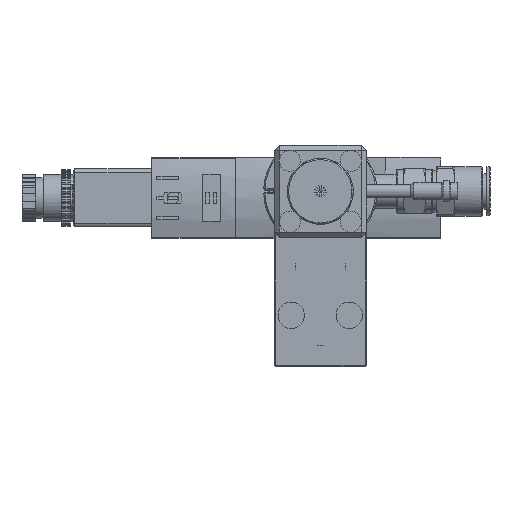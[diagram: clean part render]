
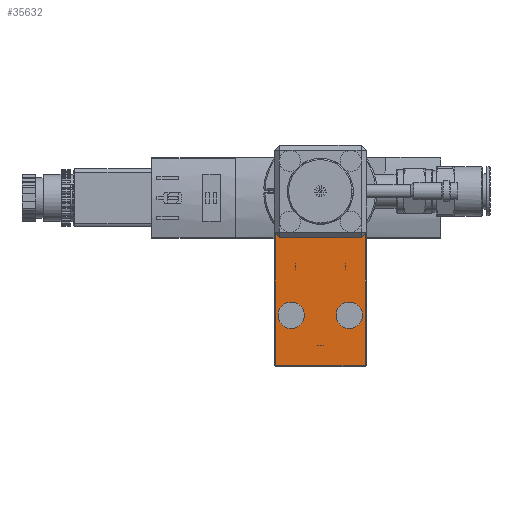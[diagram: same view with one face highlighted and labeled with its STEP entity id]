
A CAD part, front view. The second image highlights one B-rep face of the part: STEP entity #35632.
In plain terms, the highlighted planar face has unit normal (0, -1, 0).
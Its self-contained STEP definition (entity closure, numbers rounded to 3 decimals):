
#489 = CARTESIAN_POINT ( 'NONE',  ( 17., 20., -66. ) ) ;
#592 = LINE ( 'NONE', #4089, #22152 ) ;
#725 = VERTEX_POINT ( 'NONE', #26865 ) ;
#757 = CARTESIAN_POINT ( 'NONE',  ( -17., 20., -24.5 ) ) ;
#1334 = LINE ( 'NONE', #26139, #9729 ) ;
#1860 = CIRCLE ( 'NONE', #11705, 5. ) ;
#3823 = DIRECTION ( 'NONE',  ( 0., 1., 0. ) ) ;
#4089 = CARTESIAN_POINT ( 'NONE',  ( -15.5, 20., -17. ) ) ;
#4356 = LINE ( 'NONE', #16863, #37200 ) ;
#4552 = DIRECTION ( 'NONE',  ( -0.707, 0., -0.707 ) ) ;
#5322 = VERTEX_POINT ( 'NONE', #14360 ) ;
#6152 = CARTESIAN_POINT ( 'NONE',  ( 17., 20., -15.293 ) ) ;
#7515 = ORIENTED_EDGE ( 'NONE', *, *, #8102, .T. ) ;
#8102 = EDGE_CURVE ( 'NONE', #19558, #725, #16359, .T. ) ;
#9729 = VECTOR ( 'NONE', #22853, 1000. ) ;
#10432 = LINE ( 'NONE', #20031, #37012 ) ;
#10791 = DIRECTION ( 'NONE',  ( 0., 0., 1. ) ) ;
#11668 = EDGE_LOOP ( 'NONE', ( #14402 ) ) ;
#11705 = AXIS2_PLACEMENT_3D ( 'NONE', #19997, #29443, #16934 ) ;
#12196 = VERTEX_POINT ( 'NONE', #19119 ) ;
#13289 = DIRECTION ( 'NONE',  ( 0., 0., -1. ) ) ;
#13771 = EDGE_CURVE ( 'NONE', #15449, #12196, #592, .T. ) ;
#13899 = VECTOR ( 'NONE', #13289, 1000. ) ;
#14200 = DIRECTION ( 'NONE',  ( 0., 0., 1. ) ) ;
#14326 = VECTOR ( 'NONE', #4552, 1000. ) ;
#14360 = CARTESIAN_POINT ( 'NONE',  ( 11., 20., -52. ) ) ;
#14402 = ORIENTED_EDGE ( 'NONE', *, *, #27837, .F. ) ;
#15310 = EDGE_LOOP ( 'NONE', ( #38120 ) ) ;
#15449 = VERTEX_POINT ( 'NONE', #26768 ) ;
#16104 = AXIS2_PLACEMENT_3D ( 'NONE', #26336, #3823, #10791 ) ;
#16359 = LINE ( 'NONE', #757, #13899 ) ;
#16579 = EDGE_CURVE ( 'NONE', #725, #37054, #1334, .T. ) ;
#16599 = DIRECTION ( 'NONE',  ( 0., -1., 0. ) ) ;
#16631 = EDGE_CURVE ( 'NONE', #5322, #5322, #1860, .T. ) ;
#16863 = CARTESIAN_POINT ( 'NONE',  ( 17., 20., -24.5 ) ) ;
#16934 = DIRECTION ( 'NONE',  ( 0., 0., -1. ) ) ;
#17098 = AXIS2_PLACEMENT_3D ( 'NONE', #22291, #16599, #28487 ) ;
#17124 = FACE_BOUND ( 'NONE', #11668, .T. ) ;
#17258 = CARTESIAN_POINT ( 'NONE',  ( 16.146, 20., -16.146 ) ) ;
#19119 = CARTESIAN_POINT ( 'NONE',  ( -15.293, 20., -17. ) ) ;
#19558 = VERTEX_POINT ( 'NONE', #34876 ) ;
#19997 = CARTESIAN_POINT ( 'NONE',  ( 11., 20., -47. ) ) ;
#20031 = CARTESIAN_POINT ( 'NONE',  ( -16.146, 20., -16.146 ) ) ;
#20421 = EDGE_CURVE ( 'NONE', #27277, #15449, #23785, .T. ) ;
#20423 = EDGE_CURVE ( 'NONE', #37054, #27277, #4356, .T. ) ;
#22152 = VECTOR ( 'NONE', #25582, 1000. ) ;
#22291 = CARTESIAN_POINT ( 'NONE',  ( -11., 20., -47. ) ) ;
#22383 = EDGE_CURVE ( 'NONE', #12196, #19558, #10432, .T. ) ;
#22701 = CARTESIAN_POINT ( 'NONE',  ( -11., 20., -52. ) ) ;
#22853 = DIRECTION ( 'NONE',  ( 1., 0., 0. ) ) ;
#22887 = DIRECTION ( 'NONE',  ( -0.707, 0., 0.707 ) ) ;
#23785 = LINE ( 'NONE', #17258, #14326 ) ;
#25289 = ORIENTED_EDGE ( 'NONE', *, *, #20423, .T. ) ;
#25582 = DIRECTION ( 'NONE',  ( -1., 0., 0. ) ) ;
#26139 = CARTESIAN_POINT ( 'NONE',  ( 0., 20., -66. ) ) ;
#26336 = CARTESIAN_POINT ( 'NONE',  ( 0., 20., -24.5 ) ) ;
#26768 = CARTESIAN_POINT ( 'NONE',  ( 15.293, 20., -17. ) ) ;
#26865 = CARTESIAN_POINT ( 'NONE',  ( -17., 20., -66. ) ) ;
#27258 = ORIENTED_EDGE ( 'NONE', *, *, #16579, .T. ) ;
#27277 = VERTEX_POINT ( 'NONE', #6152 ) ;
#27837 = EDGE_CURVE ( 'NONE', #38294, #38294, #34765, .T. ) ;
#28487 = DIRECTION ( 'NONE',  ( 0., 0., -1. ) ) ;
#29443 = DIRECTION ( 'NONE',  ( 0., -1., 0. ) ) ;
#29608 = ORIENTED_EDGE ( 'NONE', *, *, #22383, .T. ) ;
#30277 = ORIENTED_EDGE ( 'NONE', *, *, #20421, .T. ) ;
#32087 = FACE_BOUND ( 'NONE', #15310, .T. ) ;
#32292 = PLANE ( 'NONE',  #16104 ) ;
#34765 = CIRCLE ( 'NONE', #17098, 5. ) ;
#34876 = CARTESIAN_POINT ( 'NONE',  ( -17., 20., -15.293 ) ) ;
#35632 = ADVANCED_FACE ( 'NONE', ( #38833, #17124, #32087 ), #32292, .F. ) ;
#36182 = ORIENTED_EDGE ( 'NONE', *, *, #13771, .T. ) ;
#37012 = VECTOR ( 'NONE', #22887, 1000. ) ;
#37054 = VERTEX_POINT ( 'NONE', #489 ) ;
#37200 = VECTOR ( 'NONE', #14200, 1000. ) ;
#38120 = ORIENTED_EDGE ( 'NONE', *, *, #16631, .F. ) ;
#38294 = VERTEX_POINT ( 'NONE', #22701 ) ;
#38621 = EDGE_LOOP ( 'NONE', ( #36182, #29608, #7515, #27258, #25289, #30277 ) ) ;
#38833 = FACE_OUTER_BOUND ( 'NONE', #38621, .T. ) ;
